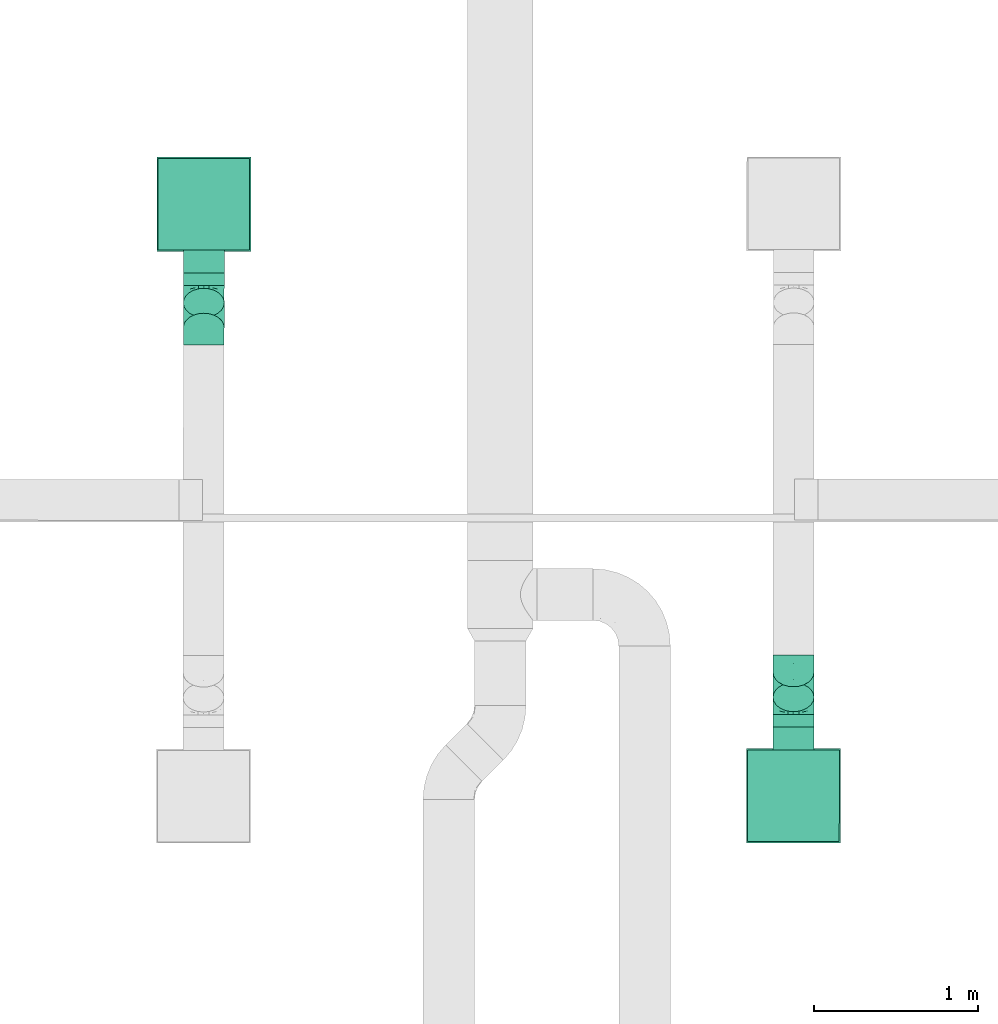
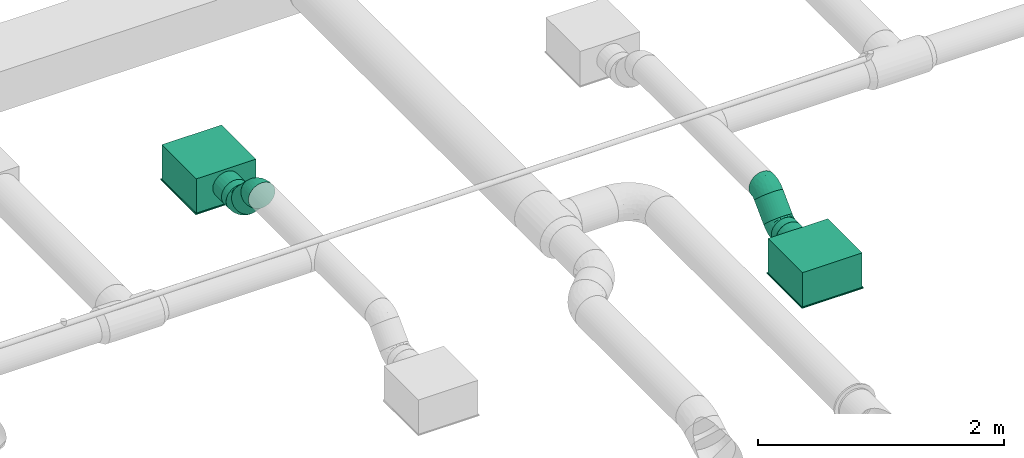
# One storey, part 25 of 63: 4 flow fittings, 4 flow segments, 2 flow terminals.
"""IFC2X3 building model written with IfcOpenShell, lengths in millimetres."""

from ifc_helpers import new_model, entity, si_unit, converted_unit, derived_unit, direction, frame, origin_with_axes, origin_2d_with_axis, place, context, subcontext, project, spatial, hollow_circle, extrude, open_shell, surface_model, source, transform, mapped, type_object, element, save


model = new_model("IFC2X3")

# Units and contexts
model_context = context("Model", 3, precision=0.01, world=frame((0.0, 4.29681676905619e-09, 0.0)), true_north=direction((4.01073788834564e-13, 1.0)))
plan_context = context("Plan", 3, precision=0.01, world=frame((0.0, 4.29681676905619e-09, 0.0)), true_north=direction((4.01073788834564e-13, 1.0)))
body_context = subcontext(model_context, "Body", "Model", "MODEL_VIEW")
ifc_project = project(units=[converted_unit("PLANEANGLEUNIT", "DEGREE", entity("IfcPositiveLengthMeasure", 0.0174532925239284), si_unit("PLANEANGLEUNIT", "RADIAN"), dimensions=[0, 0, 0, 0, 0, 0, 0]), si_unit("AREAUNIT", "SQUARE_METRE"), si_unit("LENGTHUNIT", "METRE", prefix="MILLI"), si_unit("MASSUNIT", "GRAM", prefix="KILO"), si_unit("POWERUNIT", "WATT"), si_unit("PRESSUREUNIT", "PASCAL"), si_unit("FORCEUNIT", "NEWTON", prefix="KILO"), si_unit("ELECTRICVOLTAGEUNIT", "VOLT"), si_unit("ELECTRICCURRENTUNIT", "AMPERE"), si_unit("THERMODYNAMICTEMPERATUREUNIT", "DEGREE_CELSIUS"), si_unit("TIMEUNIT", "SECOND"), si_unit("VOLUMEUNIT", "CUBIC_METRE"), derived_unit("LINEARVELOCITYUNIT", [(si_unit("LENGTHUNIT", "METRE"), 1), (si_unit("TIMEUNIT", "SECOND"), -1)]), derived_unit("VOLUMETRICFLOWRATEUNIT", [(si_unit("VOLUMEUNIT", "CUBIC_METRE"), 1), (si_unit("TIMEUNIT", "SECOND"), -1)]), derived_unit("THERMALTRANSMITTANCEUNIT", [(si_unit("POWERUNIT", "WATT"), 1), (si_unit("THERMODYNAMICTEMPERATUREUNIT", "KELVIN"), -1), (si_unit("AREAUNIT", "SQUARE_METRE"), -1)]), derived_unit("SOUNDPRESSUREUNIT", [(si_unit("PRESSUREUNIT", "PASCAL"), 1)])], contexts=[model_context, plan_context])

# Site, building, storey
site_placement = place(None, frame((0.0, -4.29681676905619e-09, 0.0), z_axis=(0.0, 0.0, 1.0), x_axis=(1.0, 0.0, 0.0)))
site = spatial("IfcSite", under=ifc_project, at=site_placement, CompositionType="ELEMENT")
building_placement = place(site_placement, frame((0.0, 4.29681676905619e-09, 0.0), z_axis=(0.0, 0.0, 1.0), x_axis=(1.0, 0.0, 0.0)))
building = spatial("IfcBuilding", under=site, at=building_placement, Name="mc-building", CompositionType="ELEMENT")
storey_placement = place(building_placement, frame((0.0, 0.0, 210900.0), z_axis=(0.0, 0.0, 1.0), x_axis=(1.0, 0.0, 0.0)))
storey = spatial("IfcBuildingStorey", under=building, at=storey_placement, Name="Nivå F", CompositionType="ELEMENT", Elevation=210900.0)

# Flow fittings
duct_fitting_type = type_object("IfcDuctFittingType", Name="magicirc_elbow_short_001", PredefinedType="BEND")
shared_shape_1 = source(origin_with_axes(), body_context, "Body", "SurfaceModel", [
    surface_model("IfcShellBasedSurfaceModel", [(-62.13204, 0.0, -125.0), (-62.13204, -32.35238, -120.74073), (-62.13204, 32.35238, -120.74073), (-62.13204, 62.5, -108.25318), (-62.13204, 88.38835, -88.38835), (-62.13204, 108.25318, -62.5), (-62.13204, 120.74073, -32.35238), (-62.13204, -62.5, -108.25318), (-62.13204, -88.38835, -88.38835), (-62.13204, -125.0, 0.0), (-62.13204, -108.25318, -62.5), (-62.13204, -120.74073, -32.35238), (-62.13204, 125.0, 0.0), (-62.13204, -120.74073, 32.35238), (-62.13204, 120.74073, 32.35238), (-62.13204, 108.25318, 62.5), (-62.13204, 32.35238, 120.74073), (-62.13204, 62.5, 108.25318), (-62.13204, 88.38835, 88.38835), (-62.13204, -88.38835, 88.38835), (-62.13204, -108.25318, 62.5), (-62.13204, -32.35238, 120.74073), (-62.13204, 0.0, 125.0), (-62.13204, -62.5, 108.25318), (-32.61257, 120.48054, -62.5), (-41.44261, 129.31057, -32.35238), (-44.45436, 132.32233, 0.0), (-41.44261, 129.31057, 32.35238), (-32.61257, 120.48054, 62.5), (-39.32094, -100.77129, 72.52866), (-25.3983, -115.58366, 40.92131), (-9.38975, -99.61313, 67.6303), (-40.71594, 99.20513, 81.38635), (-18.56602, 106.43398, 88.38835), (6.93461, -16.74165, 121.22697), (-29.92798, -19.88945, 122.8817), (-17.69423, -50.99343, 111.83063), (-28.63512, 12.8945, 124.68547), (-43.55871, 45.16564, 117.17454), (-19.1971, 46.34588, 119.14586), (20.11216, -107.05726, 35.36285), (37.22525, -89.79474, 60.1728), (-42.64489, 65.81413, 107.6176), (18.18237, -43.89615, 109.72868), (-48.14682, 116.23669, 52.46898), (11.13029, 29.36587, 124.68547), (-8.4822, -119.71595, 0.0), (17.31186, -111.89141, 0.0), (-27.44697, 77.92943, 103.54984), (-1.13628, 62.73759, 117.17454), (-0.26019, 88.12816, 108.25318), (29.58221, -71.41779, 87.09722), (2.27359, -83.55864, 84.32151), (46.20365, -49.09439, 98.73245), (43.10591, -104.06687, 0.0), (-28.63512, 12.89449, -124.68547), (-29.92797, -19.88945, -122.8817), (11.13029, 29.36586, -124.68547), (-19.1971, 46.34588, -119.14586), (-43.55871, 45.16564, -117.17454), (-35.69649, 74.51237, -103.54983), (-25.3983, -115.58366, -40.92131), (-48.14682, 116.23669, -52.46898), (-39.32094, -100.77129, -72.52866), (-16.38313, 76.69211, -107.6176), (-18.56602, 106.43398, -88.38835), (-0.26019, 88.12816, -108.25318), (-17.69423, -50.99343, -111.83063), (6.93461, -16.74165, -121.22697), (-1.13628, 62.73759, -117.17454), (48.5695, -23.54609, -111.83063), (35.22623, 7.0983, -122.8817), (-9.38975, -99.61313, -67.63031), (2.04406, -67.38589, -98.73245), (29.58221, -71.41778, -87.09723), (43.93399, 43.934, -125.0), (106.43399, -18.56599, 88.38835), (132.32235, -44.45434, 0.0), (21.05739, 66.81058, -120.74073), (88.12817, -0.26017, 108.25318), (66.81057, 21.05741, -120.74073), (106.43399, -18.56599, -88.38835), (88.12817, -0.26017, -108.25318), (129.31058, -41.44258, -32.35238), (120.48055, -32.61255, -62.5), (21.05739, 66.81058, 120.74073), (43.93399, 43.934, 125.0), (129.31058, -41.44258, 32.35238), (120.48055, -32.61255, 62.5), (66.81057, 21.05741, 120.74073), (-31.08246, -121.94188, 0.0), (35.22622, 7.09831, 122.8817), (-25.98217, -78.69805, 94.74512), (-3.43913, -67.17105, 100.02812), (77.07669, -63.79755, 67.6303), (61.9235, -89.5906, 35.66991), (-52.56496, 126.90301, 0.0), (99.68931, -63.77067, 40.92131), (48.5695, -23.54609, 111.83062), (99.06018, -43.45194, 72.52866), (74.0201, -37.27574, 94.74512), (108.20455, -64.2473, 0.0), (90.64979, -78.65413, 0.0), (66.87785, -91.36049, 0.0), (19.56361, -107.13664, -35.66991), (-41.35812, 98.93914, -81.38635), (-25.98217, -78.69805, -94.74512), (61.47949, -89.92235, -35.36285), (18.18239, -43.89616, -109.72867), (57.47721, -60.69254, -84.32152), (74.02009, -37.27574, -94.74513), (77.07669, -63.79755, -67.6303), (37.17223, -89.81669, -60.17279), (99.68931, -63.77066, -40.92131), (99.06018, -43.45194, -72.52866), (49.92893, -45.06527, -100.02812)], [open_shell([[[0, 1, 2]], [[3, 2, 4]], [[1, 5, 2]], [[4, 2, 5]], [[5, 1, 6]], [[7, 8, 1]], [[9, 1, 8]], [[10, 11, 8]], [[9, 8, 11]], [[9, 6, 1]], [[9, 12, 6]], [[12, 13, 14]], [[15, 14, 16]], [[16, 17, 18]], [[15, 16, 18]], [[16, 14, 19]], [[20, 19, 13]], [[19, 14, 13]], [[21, 22, 23]], [[19, 23, 22]], [[19, 22, 16]], [[9, 13, 12]], [[24, 25, 26]], [[26, 27, 28]], [[29, 30, 31]], [[32, 33, 28]], [[30, 20, 13]], [[34, 35, 36]], [[21, 35, 22]], [[21, 23, 36]], [[16, 22, 37]], [[38, 37, 39]], [[31, 40, 41]], [[42, 17, 38]], [[38, 17, 16]], [[43, 34, 36]], [[35, 37, 22]], [[14, 15, 44]], [[42, 32, 18]], [[29, 19, 20]], [[40, 31, 30]], [[37, 45, 39]], [[45, 37, 34]], [[40, 46, 47]], [[42, 18, 17]], [[33, 32, 48]], [[27, 44, 28]], [[48, 39, 49]], [[33, 48, 50]], [[44, 32, 28]], [[18, 32, 15]], [[36, 35, 21]], [[37, 35, 34]], [[41, 51, 52]], [[14, 44, 27]], [[32, 44, 15]], [[37, 38, 16]], [[42, 39, 48]], [[39, 42, 38]], [[42, 48, 32]], [[48, 49, 50]], [[45, 49, 39]], [[30, 29, 20]], [[53, 43, 51]], [[46, 40, 30]], [[47, 54, 40]], [[41, 52, 31]], [[0, 2, 55]], [[56, 1, 0]], [[57, 55, 58]], [[59, 60, 58]], [[10, 61, 11]], [[3, 4, 60]], [[62, 6, 25]], [[61, 10, 63]], [[64, 65, 66]], [[1, 56, 67]], [[8, 63, 10]], [[7, 1, 67]], [[56, 55, 68]], [[25, 24, 62]], [[69, 64, 66]], [[2, 3, 59]], [[59, 55, 2]], [[69, 57, 58]], [[70, 68, 71]], [[55, 57, 68]], [[55, 56, 0]], [[67, 56, 68]], [[57, 71, 68]], [[6, 62, 5]], [[60, 59, 3]], [[55, 59, 58]], [[64, 58, 60]], [[58, 64, 69]], [[61, 63, 72]], [[72, 73, 74]], [[75, 76, 77]], [[66, 26, 78]], [[78, 79, 75]], [[24, 66, 65]], [[66, 24, 26]], [[80, 81, 82]], [[80, 75, 81]], [[81, 83, 84]], [[83, 81, 77]], [[75, 77, 81]], [[26, 28, 50]], [[50, 85, 26]], [[50, 28, 33]], [[26, 85, 86]], [[87, 76, 88]], [[77, 76, 87]], [[79, 86, 89]], [[76, 75, 79]], [[86, 79, 26]], [[78, 26, 79]], [[90, 46, 30]], [[91, 45, 34]], [[23, 92, 36]], [[52, 93, 92]], [[94, 41, 95]], [[23, 19, 92]], [[96, 14, 27]], [[40, 95, 41]], [[96, 12, 14]], [[94, 95, 97]], [[40, 54, 95]], [[98, 89, 91]], [[99, 88, 76]], [[89, 98, 79]], [[88, 99, 97]], [[88, 97, 87]], [[98, 100, 79]], [[53, 94, 100]], [[97, 101, 87]], [[85, 50, 49]], [[41, 94, 51]], [[30, 13, 90]], [[26, 96, 27]], [[95, 102, 97]], [[95, 54, 103]], [[86, 91, 89]], [[86, 85, 45]], [[45, 85, 49]], [[34, 43, 98]], [[29, 92, 19]], [[79, 100, 76]], [[52, 92, 31]], [[95, 103, 102]], [[53, 100, 98]], [[99, 100, 94]], [[45, 91, 86]], [[98, 91, 34]], [[13, 9, 90]], [[101, 97, 102]], [[101, 77, 87]], [[92, 29, 31]], [[100, 99, 76]], [[97, 99, 94]], [[93, 36, 92]], [[51, 43, 93]], [[51, 93, 52]], [[43, 36, 93]], [[43, 53, 98]], [[94, 53, 51]], [[104, 46, 61]], [[78, 75, 57]], [[4, 105, 60]], [[73, 72, 106]], [[80, 82, 70]], [[61, 90, 11]], [[83, 77, 101]], [[106, 7, 67]], [[107, 102, 103]], [[104, 54, 47]], [[72, 104, 61]], [[106, 8, 7]], [[68, 108, 67]], [[6, 12, 96]], [[109, 110, 111]], [[96, 26, 25]], [[112, 72, 74]], [[113, 83, 101]], [[82, 81, 110]], [[113, 84, 83]], [[64, 105, 65]], [[4, 5, 105]], [[114, 81, 84]], [[110, 109, 115]], [[70, 82, 110]], [[66, 78, 69]], [[75, 80, 71]], [[111, 114, 113]], [[108, 68, 70]], [[113, 101, 102]], [[107, 104, 112]], [[107, 111, 113]], [[111, 107, 112]], [[71, 57, 75]], [[104, 47, 46]], [[96, 25, 6]], [[114, 110, 81]], [[107, 54, 104]], [[73, 106, 67]], [[63, 106, 72]], [[62, 105, 5]], [[65, 105, 24]], [[70, 71, 80]], [[90, 61, 46]], [[90, 9, 11]], [[72, 112, 104]], [[112, 74, 109]], [[105, 62, 24]], [[57, 69, 78]], [[64, 60, 105]], [[113, 114, 84]], [[110, 114, 111]], [[106, 63, 8]], [[115, 70, 110]], [[73, 108, 74]], [[102, 107, 113]], [[103, 54, 107]], [[112, 109, 111]], [[74, 108, 115]], [[74, 115, 109]], [[108, 70, 115]], [[108, 73, 67]]])]),
])
for number, where, z_axis, x_axis, name in (
    (1, (526902.91131, 453840.20991, 3960.01264), (-0.999999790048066, 0.000647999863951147, 0.0), (-0.000647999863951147, -0.999999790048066, 0.0), "magicirc_elbow_short_001"),
    (2, (530503.93769, 451343.80491, 3960.01264), (0.999999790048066, -0.000647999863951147, 0.0), (0.000647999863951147, 0.999999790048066, 0.0), "magicirc_elbow_short_001"),
):
    element("IfcFlowFitting", number, at=place(storey_placement, frame(where, z_axis=z_axis, x_axis=x_axis)), inside=storey, type_object=duct_fitting_type, Name=name, context=body_context, shape_type="MappedRepresentation", body=[
        mapped(shared_shape_1, transform((0.0, 0.0, 0.0), scale=1.0)),
    ])
shared_shape_2 = source(origin_with_axes(), body_context, "Body", "SurfaceModel", [
    surface_model("IfcShellBasedSurfaceModel", [(-62.13204, 0.0, -125.0), (-62.13204, -32.35238, -120.74073), (-62.13204, 32.35238, -120.74073), (-62.13204, 62.5, -108.25318), (-62.13204, 88.38835, -88.38835), (-62.13204, 108.25318, -62.5), (-62.13204, 120.74073, -32.35238), (-62.13204, -62.5, -108.25318), (-62.13204, -88.38835, -88.38835), (-62.13204, -125.0, 0.0), (-62.13204, -108.25318, -62.5), (-62.13204, -120.74073, -32.35238), (-62.13204, 125.0, 0.0), (-62.13204, -120.74073, 32.35238), (-62.13204, 120.74073, 32.35238), (-62.13204, 108.25318, 62.5), (-62.13204, 32.35238, 120.74073), (-62.13204, 62.5, 108.25318), (-62.13204, 88.38835, 88.38835), (-62.13204, -88.38835, 88.38835), (-62.13204, -108.25318, 62.5), (-62.13204, -32.35238, 120.74073), (-62.13204, 0.0, 125.0), (-62.13204, -62.5, 108.25318), (-32.61257, 120.48054, -62.5), (-41.44261, 129.31057, -32.35238), (-44.45436, 132.32233, 0.0), (-41.44261, 129.31057, 32.35238), (-32.61257, 120.48054, 62.5), (-39.32094, -100.77129, 72.52866), (-25.3983, -115.58366, 40.92131), (-9.38975, -99.61313, 67.6303), (-40.71594, 99.20513, 81.38635), (-18.56602, 106.43398, 88.38835), (6.93461, -16.74165, 121.22697), (-29.92798, -19.88945, 122.8817), (-17.69423, -50.99343, 111.83063), (-28.63512, 12.8945, 124.68547), (-43.55871, 45.16564, 117.17454), (-19.1971, 46.34588, 119.14586), (20.11216, -107.05726, 35.36285), (37.22525, -89.79474, 60.1728), (-42.64489, 65.81413, 107.6176), (18.18237, -43.89615, 109.72868), (-48.14682, 116.23669, 52.46898), (11.13029, 29.36587, 124.68547), (-8.4822, -119.71595, 0.0), (17.31186, -111.89141, 0.0), (-27.44697, 77.92943, 103.54984), (-1.13628, 62.73759, 117.17454), (-0.26019, 88.12816, 108.25318), (29.58221, -71.41779, 87.09722), (2.27359, -83.55864, 84.32151), (46.20365, -49.09439, 98.73245), (43.10591, -104.06687, 0.0), (-28.63512, 12.89449, -124.68547), (-29.92797, -19.88945, -122.8817), (11.13029, 29.36586, -124.68547), (-19.1971, 46.34588, -119.14586), (-43.55871, 45.16564, -117.17454), (-35.69649, 74.51237, -103.54983), (-25.3983, -115.58366, -40.92131), (-48.14682, 116.23669, -52.46898), (-39.32094, -100.77129, -72.52866), (-16.38313, 76.69211, -107.6176), (-18.56602, 106.43398, -88.38835), (-0.26019, 88.12816, -108.25318), (-17.69423, -50.99343, -111.83063), (6.93461, -16.74165, -121.22697), (-1.13628, 62.73759, -117.17454), (48.5695, -23.54609, -111.83063), (35.22623, 7.0983, -122.8817), (-9.38975, -99.61313, -67.63031), (2.04406, -67.38589, -98.73245), (29.58221, -71.41778, -87.09723), (43.93399, 43.934, -125.0), (106.43399, -18.56599, 88.38835), (132.32235, -44.45434, 0.0), (21.05739, 66.81058, -120.74073), (88.12817, -0.26017, 108.25318), (66.81057, 21.05741, -120.74073), (106.43399, -18.56599, -88.38835), (88.12817, -0.26017, -108.25318), (129.31058, -41.44258, -32.35238), (120.48055, -32.61255, -62.5), (21.05739, 66.81058, 120.74073), (43.93399, 43.934, 125.0), (129.31058, -41.44258, 32.35238), (120.48055, -32.61255, 62.5), (66.81057, 21.05741, 120.74073), (-31.08246, -121.94188, 0.0), (35.22622, 7.09831, 122.8817), (77.07669, -63.79755, 67.6303), (61.9235, -89.5906, 35.66991), (-52.56496, 126.90301, 0.0), (99.68931, -63.77067, 40.92131), (48.5695, -23.54609, 111.83062), (99.06018, -43.45194, 72.52866), (74.0201, -37.27574, 94.74512), (108.20455, -64.2473, 0.0), (90.64979, -78.65413, 0.0), (66.87785, -91.36049, 0.0), (-3.43913, -67.17105, 100.02812), (19.56361, -107.13664, -35.66991), (-41.35812, 98.93914, -81.38635), (-25.98217, -78.69805, -94.74512), (61.47949, -89.92235, -35.36285), (18.18239, -43.89616, -109.72867), (57.47721, -60.69254, -84.32152), (74.02009, -37.27574, -94.74513), (77.07669, -63.79755, -67.6303), (37.17223, -89.81669, -60.17279), (99.68931, -63.77066, -40.92131), (99.06018, -43.45194, -72.52866), (49.92893, -45.06527, -100.02812), (-25.98217, -78.69805, 94.74512)], [open_shell([[[0, 1, 2]], [[3, 2, 4]], [[1, 5, 2]], [[4, 2, 5]], [[5, 1, 6]], [[7, 8, 1]], [[9, 1, 8]], [[10, 11, 8]], [[9, 8, 11]], [[9, 6, 1]], [[9, 12, 6]], [[12, 13, 14]], [[15, 14, 16]], [[16, 17, 18]], [[15, 16, 18]], [[16, 14, 19]], [[20, 19, 13]], [[19, 14, 13]], [[21, 22, 23]], [[19, 23, 22]], [[19, 22, 16]], [[9, 13, 12]], [[24, 25, 26]], [[26, 27, 28]], [[29, 30, 31]], [[32, 33, 28]], [[30, 20, 13]], [[34, 35, 36]], [[21, 35, 22]], [[21, 23, 36]], [[16, 22, 37]], [[38, 37, 39]], [[31, 40, 41]], [[42, 17, 38]], [[38, 17, 16]], [[43, 34, 36]], [[35, 37, 22]], [[14, 15, 44]], [[42, 32, 18]], [[29, 19, 20]], [[40, 31, 30]], [[37, 45, 39]], [[45, 37, 34]], [[40, 46, 47]], [[42, 18, 17]], [[33, 32, 48]], [[27, 44, 28]], [[48, 39, 49]], [[33, 48, 50]], [[44, 32, 28]], [[18, 32, 15]], [[36, 35, 21]], [[37, 35, 34]], [[41, 51, 52]], [[14, 44, 27]], [[32, 44, 15]], [[37, 38, 16]], [[42, 39, 48]], [[39, 42, 38]], [[42, 48, 32]], [[48, 49, 50]], [[45, 49, 39]], [[30, 29, 20]], [[53, 43, 51]], [[46, 40, 30]], [[47, 54, 40]], [[41, 52, 31]], [[0, 2, 55]], [[56, 1, 0]], [[57, 55, 58]], [[59, 60, 58]], [[10, 61, 11]], [[3, 4, 60]], [[62, 6, 25]], [[61, 10, 63]], [[64, 65, 66]], [[1, 56, 67]], [[8, 63, 10]], [[7, 1, 67]], [[56, 55, 68]], [[25, 24, 62]], [[69, 64, 66]], [[2, 3, 59]], [[59, 55, 2]], [[69, 57, 58]], [[70, 68, 71]], [[55, 57, 68]], [[55, 56, 0]], [[67, 56, 68]], [[57, 71, 68]], [[6, 62, 5]], [[60, 59, 3]], [[55, 59, 58]], [[64, 58, 60]], [[58, 64, 69]], [[61, 63, 72]], [[72, 73, 74]], [[75, 76, 77]], [[66, 26, 78]], [[78, 79, 75]], [[24, 66, 65]], [[66, 24, 26]], [[80, 81, 82]], [[80, 75, 81]], [[81, 83, 84]], [[83, 81, 77]], [[75, 77, 81]], [[26, 28, 50]], [[50, 85, 26]], [[50, 28, 33]], [[26, 85, 86]], [[87, 76, 88]], [[77, 76, 87]], [[79, 86, 89]], [[76, 75, 79]], [[86, 79, 26]], [[78, 26, 79]], [[90, 46, 30]], [[91, 45, 34]], [[92, 41, 93]], [[94, 14, 27]], [[40, 93, 41]], [[94, 12, 14]], [[92, 93, 95]], [[40, 54, 93]], [[96, 89, 91]], [[97, 88, 76]], [[89, 96, 79]], [[88, 97, 95]], [[88, 95, 87]], [[96, 98, 79]], [[53, 92, 98]], [[95, 99, 87]], [[85, 50, 49]], [[41, 92, 51]], [[30, 13, 90]], [[26, 94, 27]], [[93, 100, 95]], [[93, 54, 101]], [[86, 91, 89]], [[86, 85, 45]], [[45, 85, 49]], [[34, 43, 96]], [[79, 98, 76]], [[93, 101, 100]], [[53, 98, 96]], [[97, 98, 92]], [[45, 91, 86]], [[96, 91, 34]], [[13, 9, 90]], [[99, 95, 100]], [[99, 77, 87]], [[98, 97, 76]], [[95, 97, 92]], [[51, 43, 102]], [[51, 102, 52]], [[43, 36, 102]], [[43, 53, 96]], [[92, 53, 51]], [[103, 46, 61]], [[78, 75, 57]], [[4, 104, 60]], [[73, 72, 105]], [[80, 82, 70]], [[61, 90, 11]], [[83, 77, 99]], [[105, 7, 67]], [[106, 100, 101]], [[103, 54, 47]], [[72, 103, 61]], [[105, 8, 7]], [[68, 107, 67]], [[6, 12, 94]], [[108, 109, 110]], [[94, 26, 25]], [[111, 72, 74]], [[112, 83, 99]], [[82, 81, 109]], [[112, 84, 83]], [[64, 104, 65]], [[4, 5, 104]], [[113, 81, 84]], [[109, 108, 114]], [[70, 82, 109]], [[66, 78, 69]], [[75, 80, 71]], [[110, 113, 112]], [[107, 68, 70]], [[112, 99, 100]], [[106, 103, 111]], [[106, 110, 112]], [[110, 106, 111]], [[71, 57, 75]], [[103, 47, 46]], [[94, 25, 6]], [[113, 109, 81]], [[106, 54, 103]], [[73, 105, 67]], [[63, 105, 72]], [[62, 104, 5]], [[65, 104, 24]], [[70, 71, 80]], [[90, 61, 46]], [[90, 9, 11]], [[72, 111, 103]], [[111, 74, 108]], [[104, 62, 24]], [[57, 69, 78]], [[64, 60, 104]], [[112, 113, 84]], [[109, 113, 110]], [[105, 63, 8]], [[114, 70, 109]], [[73, 107, 74]], [[100, 106, 112]], [[101, 54, 106]], [[111, 108, 110]], [[74, 107, 114]], [[74, 114, 108]], [[107, 70, 114]], [[107, 73, 67]], [[23, 115, 36]], [[52, 102, 115]], [[23, 19, 115]], [[29, 115, 19]], [[52, 115, 31]], [[115, 29, 31]], [[102, 36, 115]]])]),
])
for number, where, z_axis, x_axis, name in (
    (3, (526902.75586, 453600.22266, 4200.0), (0.999999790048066, -0.000647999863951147, -3.79470760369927e-19), (-0.000458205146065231, -0.707106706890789, 0.707106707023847), "magicirc_elbow_short_001"),
    (4, (530504.09314, 451583.79216, 4200.0), (-0.999999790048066, 0.000647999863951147, -3.79470760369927e-19), (0.000458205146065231, 0.707106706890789, 0.707106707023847), "magicirc_elbow_short_001"),
):
    element("IfcFlowFitting", number, at=place(storey_placement, frame(where, z_axis=z_axis, x_axis=x_axis)), inside=storey, type_object=duct_fitting_type, Name=name, context=body_context, shape_type="MappedRepresentation", body=[
        mapped(shared_shape_2, transform((0.0, 0.0, 0.0), scale=1.0)),
    ])

# Flow segments
duct_segment_type = type_object("IfcDuctSegmentType", Name="KK002T - Spiro kanaler, Forsinket stål, korte bend", PredefinedType="RIGIDSEGMENT")
shared_shape_3 = source(origin_with_axes(), body_context, "Body", "SweptSolid", [
    extrude(hollow_circle(Radius=125.0, WallThickness=2.0, at=origin_2d_with_axis()), frame((0.0, 0.0, 0.0), z_axis=(1.0, 0.0, 0.0), x_axis=(0.0, 1.0, 0.0)), (0.0, 0.0, 1.0), 75.7),
])
for number, where, z_axis, x_axis in (
    (5, (526903.0006, 453978.06192, 3960.01264), (0.0, 0.0, 1.0), (-0.000647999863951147, -0.999999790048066, 0.0)),
    (6, (530503.84839, 451205.9529, 3960.01264), (0.0, 0.0, 1.0), (0.000647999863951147, 0.999999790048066, 0.0)),
):
    element("IfcFlowSegment", number, at=place(storey_placement, frame(where, z_axis=z_axis, x_axis=x_axis)), inside=storey, type_object=duct_segment_type, Name="KK002T - Spiro kanaler, Forsinket stål, korte bend", context=body_context, shape_type="MappedRepresentation", body=[
        mapped(shared_shape_3, transform((0.0, 0.0, 0.0), scale=1.0)),
    ])
shared_shape_4 = source(origin_with_axes(), body_context, "Body", "SweptSolid", [
    extrude(hollow_circle(Radius=125.0, WallThickness=2.0, at=origin_2d_with_axis()), frame((0.0, 0.0, 0.0), z_axis=(1.0, 0.0, 0.0), x_axis=(0.0, 1.0, 0.0)), (0.0, 0.0, 1.0), 215.1),
])
for number, where, z_axis, x_axis in (
    (7, (526902.88285, 453796.27593, 4003.94662999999), (0.00045799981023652, 0.707106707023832, 0.707106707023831), (-0.000457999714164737, -0.707106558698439, 0.707106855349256)),
    (8, (530503.96615, 451387.73889, 4003.94662999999), (-0.00045799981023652, -0.707106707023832, 0.707106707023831), (0.000457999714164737, 0.707106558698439, 0.707106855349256)),
):
    element("IfcFlowSegment", number, at=place(storey_placement, frame(where, z_axis=z_axis, x_axis=x_axis)), inside=storey, type_object=duct_segment_type, Name="KK002T - Spiro kanaler, Forsinket stål, korte bend", context=body_context, shape_type="MappedRepresentation", body=[
        mapped(shared_shape_4, transform((0.0, 0.0, 0.0), scale=1.0)),
    ])

# Flow terminals
air_terminal_type = type_object("IfcAirTerminalType", Name="NS19-H-S-2-250 - 4-way", PredefinedType="NOTDEFINED")
shared_shape_5 = source(origin_with_axes(), body_context, "Body", "SurfaceModel", [
    surface_model("IfcShellBasedSurfaceModel", [(-287.5, 287.5, 0.0), (-287.5, -287.5, 0.0), (287.5, -287.5, 0.0), (287.5, 287.5, 0.0), (287.5, 287.5, -10.0), (287.5, -287.5, -10.0), (-287.5, -287.5, -10.0), (-287.5, 287.5, -10.0), (-280.0, 280.0, 340.0), (-280.0, -280.0, 340.0), (280.0, -280.0, 340.0), (280.0, 280.0, 340.0), (280.0, 280.0, 0.0), (280.0, -280.0, 0.0), (-280.0, -280.0, 0.0), (-280.0, 280.0, 0.0), (-280.0, 62.5, 81.74683), (-280.0, 88.38835, 101.61165), (-280.0, 62.4, 81.92003), (-280.0, 32.30062, 69.45246), (-280.0, 0.0, 65.2), (-280.0, 32.35238, 69.25927), (-280.0, 0.0, 65.0), (-280.0, 88.24693, 101.75307), (-280.0, 120.74073, 157.64763), (-280.0, 124.8, 189.99999), (-280.0, 120.54755, 157.69939), (-280.0, 125.0, 189.99999), (-280.0, 108.25318, 127.5), (-280.0, 108.07997, 127.6), (-280.0, -32.30062, 69.45246), (-280.0, -32.35238, 69.25927), (-280.0, -62.4, 81.92003), (-280.0, -88.38835, 101.61165), (-280.0, -62.5, 81.74683), (-280.0, -88.24693, 101.75307), (-280.0, -108.07997, 127.6), (-280.0, -108.25318, 127.5), (-280.0, -120.54755, 157.69939), (-280.0, -120.74073, 157.64763), (-280.0, -124.8, 189.99999), (-280.0, -125.0, 189.99999), (-280.0, 120.74073, 222.35238), (-280.0, 120.54755, 222.30062), (-280.0, 108.07997, 252.4), (-280.0, 108.25318, 252.49999), (-280.0, 88.24693, 278.24693), (-280.0, 88.38835, 278.38835), (-280.0, 62.5, 298.25318), (-280.0, 62.4, 298.07997), (-280.0, 32.30062, 310.54754), (-280.0, 32.35238, 310.74073), (-280.0, 0.0, 314.80001), (-280.0, 0.0, 315.0), (-280.0, -108.25318, 252.49999), (-280.0, -108.07997, 252.4), (-280.0, -88.38835, 278.38835), (-280.0, -88.24693, 278.24693), (-280.0, -120.74073, 222.35238), (-280.0, -120.54755, 222.30062), (-280.0, -32.30062, 310.54754), (-280.0, -32.35238, 310.74073), (-280.0, -62.4, 298.07997), (-280.0, -62.5, 298.25318), (-420.00002, 62.5, 298.25318), (-420.00002, 88.38835, 278.38835), (-420.00002, 62.4, 298.07997), (-420.00002, 32.30062, 310.54754), (-420.00002, 0.0, 314.80001), (-420.00002, 32.35238, 310.74073), (-420.00002, 0.0, 315.0), (-420.00002, 88.24693, 278.24693), (-420.00002, 120.74073, 222.35238), (-420.00002, 124.8, 189.99999), (-420.00002, 120.54755, 222.30062), (-420.00002, 125.0, 189.99999), (-420.00002, 108.25318, 252.49999), (-420.00002, 108.07997, 252.4), (-420.00002, -32.30062, 310.54754), (-420.00002, -32.35238, 310.74073), (-420.00002, -62.4, 298.07997), (-420.00002, -88.38835, 278.38835), (-420.00002, -62.5, 298.25318), (-420.00002, -88.24693, 278.24693), (-420.00002, -108.07997, 252.4), (-420.00002, -108.25318, 252.49999), (-420.00002, -120.54755, 222.30062), (-420.00002, -120.74073, 222.35238), (-420.00002, -124.8, 189.99999), (-420.00002, -125.0, 189.99999), (-420.00002, 120.74073, 157.64763), (-420.00002, 120.54755, 157.69939), (-420.00002, 108.07997, 127.6), (-420.00002, 108.25318, 127.5), (-420.00002, 88.24693, 101.75307), (-420.00002, 88.38835, 101.61165), (-420.00002, 62.5, 81.74683), (-420.00002, 62.4, 81.92003), (-420.00002, 32.30062, 69.45246), (-420.00002, 32.35238, 69.25927), (-420.00002, 0.0, 65.2), (-420.00002, 0.0, 65.0), (-420.00002, -108.25318, 127.5), (-420.00002, -108.07997, 127.6), (-420.00002, -88.38835, 101.61165), (-420.00002, -88.24693, 101.75307), (-420.00002, -120.74073, 157.64763), (-420.00002, -120.54755, 157.69939), (-420.00002, -32.30062, 69.45246), (-420.00002, -32.35238, 69.25927), (-420.00002, -62.4, 81.92003), (-420.00002, -62.5, 81.74683)], [open_shell([[[0, 1, 2]], [[2, 3, 0]], [[4, 5, 6]], [[6, 7, 4]], [[2, 1, 6]], [[6, 5, 2]], [[3, 2, 5]], [[5, 4, 3]], [[0, 3, 4]], [[4, 7, 0]], [[1, 0, 7]], [[7, 6, 1]], [[8, 9, 10]], [[10, 11, 8]], [[12, 13, 14]], [[14, 15, 12]], [[10, 9, 14]], [[14, 13, 10]], [[11, 10, 13]], [[13, 12, 11]], [[8, 11, 12]], [[12, 15, 8]], [[9, 8, 15]], [[15, 14, 9]], [[16, 17, 18]], [[16, 18, 19]], [[20, 21, 19]], [[21, 20, 22]], [[19, 21, 16]], [[18, 17, 23]], [[24, 25, 26]], [[25, 24, 27]], [[24, 26, 28]], [[23, 28, 29]], [[28, 23, 17]], [[29, 28, 26]], [[22, 30, 31]], [[31, 30, 32]], [[33, 34, 35]], [[32, 34, 31]], [[32, 35, 34]], [[22, 20, 30]], [[36, 37, 33]], [[37, 36, 38]], [[36, 33, 35]], [[39, 38, 40]], [[38, 39, 37]], [[39, 40, 41]], [[27, 42, 43]], [[43, 42, 44]], [[44, 45, 46]], [[45, 44, 42]], [[46, 45, 47]], [[47, 48, 49]], [[49, 48, 50]], [[50, 51, 52]], [[51, 50, 48]], [[52, 51, 53]], [[49, 46, 47]], [[54, 55, 56]], [[56, 55, 57]], [[55, 54, 58]], [[41, 59, 58]], [[58, 59, 55]], [[41, 40, 59]], [[60, 53, 61]], [[60, 61, 62]], [[57, 63, 56]], [[57, 62, 63]], [[63, 62, 61]], [[52, 53, 60]], [[43, 25, 27]], [[64, 65, 66]], [[64, 66, 67]], [[68, 69, 67]], [[69, 68, 70]], [[67, 69, 64]], [[66, 65, 71]], [[72, 73, 74]], [[73, 72, 75]], [[72, 74, 76]], [[71, 76, 77]], [[76, 71, 65]], [[77, 76, 74]], [[70, 78, 79]], [[79, 78, 80]], [[81, 82, 83]], [[80, 82, 79]], [[80, 83, 82]], [[70, 68, 78]], [[84, 85, 81]], [[85, 84, 86]], [[84, 81, 83]], [[87, 86, 88]], [[86, 87, 85]], [[87, 88, 89]], [[75, 90, 91]], [[91, 90, 92]], [[92, 93, 94]], [[93, 92, 90]], [[94, 93, 95]], [[95, 96, 97]], [[97, 96, 98]], [[98, 99, 100]], [[99, 98, 96]], [[100, 99, 101]], [[97, 94, 95]], [[102, 103, 104]], [[104, 103, 105]], [[103, 102, 106]], [[89, 107, 106]], [[106, 107, 103]], [[89, 88, 107]], [[108, 101, 109]], [[108, 109, 110]], [[105, 111, 104]], [[105, 110, 111]], [[111, 110, 109]], [[100, 101, 108]], [[91, 73, 75]], [[39, 106, 102]], [[104, 37, 102]], [[34, 111, 109]], [[104, 111, 33]], [[31, 109, 101]], [[106, 41, 89]], [[106, 39, 41]], [[102, 37, 39]], [[104, 33, 37]], [[34, 33, 111]], [[109, 31, 34]], [[101, 22, 31]], [[21, 99, 96]], [[95, 16, 96]], [[28, 93, 90]], [[95, 93, 17]], [[24, 90, 75]], [[99, 21, 22]], [[96, 16, 21]], [[95, 17, 16]], [[93, 28, 17]], [[24, 28, 90]], [[75, 27, 24]], [[99, 22, 101]], [[42, 75, 72]], [[45, 72, 76]], [[48, 64, 69]], [[51, 69, 70]], [[72, 45, 42]], [[42, 27, 75]], [[65, 47, 45]], [[47, 65, 48]], [[48, 65, 64]], [[69, 51, 48]], [[65, 45, 76]], [[70, 53, 51]], [[61, 79, 82]], [[81, 63, 82]], [[54, 85, 87]], [[81, 85, 56]], [[58, 87, 89]], [[79, 61, 53]], [[82, 63, 61]], [[81, 56, 63]], [[85, 54, 56]], [[58, 54, 87]], [[89, 41, 58]], [[79, 53, 70]], [[103, 107, 38]], [[103, 36, 105]], [[108, 110, 32]], [[35, 110, 105]], [[100, 108, 30]], [[88, 40, 107]], [[40, 38, 107]], [[38, 36, 103]], [[36, 35, 105]], [[110, 35, 32]], [[32, 30, 108]], [[30, 20, 100]], [[97, 98, 19]], [[97, 18, 94]], [[91, 92, 29]], [[23, 92, 94]], [[73, 91, 26]], [[20, 19, 98]], [[19, 18, 97]], [[18, 23, 94]], [[23, 29, 92]], [[91, 29, 26]], [[26, 25, 73]], [[100, 20, 98]], [[74, 73, 43]], [[77, 74, 44]], [[67, 66, 49]], [[68, 67, 50]], [[43, 44, 74]], [[73, 25, 43]], [[44, 46, 71]], [[49, 71, 46]], [[66, 71, 49]], [[49, 50, 67]], [[77, 44, 71]], [[50, 52, 68]], [[80, 78, 60]], [[80, 62, 83]], [[86, 84, 55]], [[57, 84, 83]], [[88, 86, 59]], [[52, 60, 78]], [[60, 62, 80]], [[62, 57, 83]], [[57, 55, 84]], [[86, 55, 59]], [[59, 40, 88]], [[68, 52, 78]]])]),
])
for number, where, z_axis, x_axis in (
    (9, (526903.27267, 454398.08957, 3770.0), (0.0, 0.0, 1.0), (0.000647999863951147, 0.999999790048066, 0.0)),
    (10, (530503.57632, 450785.92525, 3770.0), (0.0, 0.0, 1.0), (-0.000647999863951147, -0.999999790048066, 0.0)),
):
    element("IfcFlowTerminal", number, at=place(storey_placement, frame(where, z_axis=z_axis, x_axis=x_axis)), inside=storey, type_object=air_terminal_type, Name="NS19-H-S-2-250 - 4-way", context=body_context, shape_type="MappedRepresentation", body=[
        mapped(shared_shape_5, transform((0.0, 0.0, 0.0), scale=1.0)),
    ])

save(model, "model.ifc")
